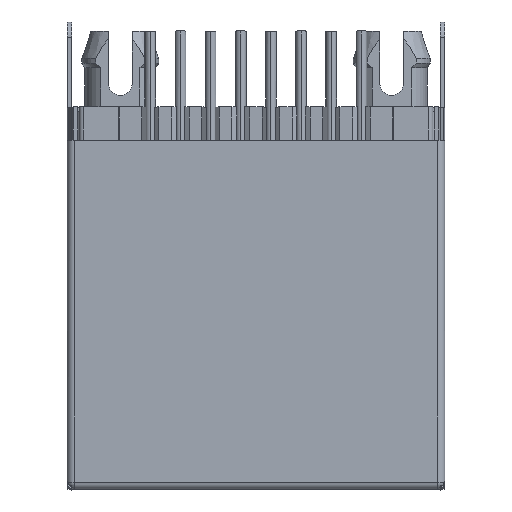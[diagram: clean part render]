
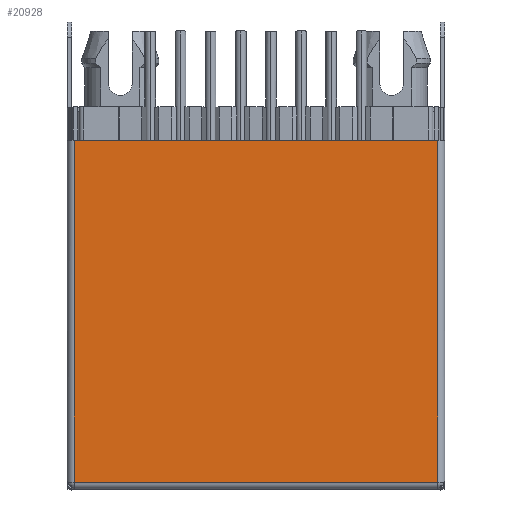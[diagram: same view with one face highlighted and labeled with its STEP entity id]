
A CAD part, top view. The second image highlights one B-rep face of the part: STEP entity #20928.
In plain terms, the highlighted planar face has unit normal (0, 0, 1).
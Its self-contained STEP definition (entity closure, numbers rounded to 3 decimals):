
#1200=DIRECTION('',(0.,1.,0.));
#1201=VECTOR('',#1200,14.4);
#1202=CARTESIAN_POINT('',(7.65,-7.85,8.4));
#1203=LINE('',#1202,#1201);
#7403=DIRECTION('',(1.,0.,0.));
#7404=VECTOR('',#7403,15.3);
#7405=CARTESIAN_POINT('',(-7.65,-7.85,8.4));
#7406=LINE('',#7405,#7404);
#7473=DIRECTION('',(0.,-1.,0.));
#7474=VECTOR('',#7473,14.4);
#7475=CARTESIAN_POINT('',(-7.65,6.55,8.4));
#7476=LINE('',#7475,#7474);
#7481=DIRECTION('',(-1.,0.,0.));
#7482=VECTOR('',#7481,15.3);
#7483=CARTESIAN_POINT('',(7.65,6.55,8.4));
#7484=LINE('',#7483,#7482);
#9434=CARTESIAN_POINT('',(-7.65,-7.85,8.4));
#9435=VERTEX_POINT('',#9434);
#9437=CARTESIAN_POINT('',(-7.65,6.55,8.4));
#9439=VERTEX_POINT('',#9437);
#9448=CARTESIAN_POINT('',(7.65,6.55,8.4));
#9449=VERTEX_POINT('',#9448);
#9493=CARTESIAN_POINT('',(7.65,-7.85,8.4));
#9494=VERTEX_POINT('',#9493);
#20917=CARTESIAN_POINT('',(0.,-0.65,8.4));
#20918=DIRECTION('',(0.,0.,1.));
#20919=DIRECTION('',(-1.,0.,0.));
#20920=AXIS2_PLACEMENT_3D('',#20917,#20918,#20919);
#20921=PLANE('',#20920);
#20922=ORIENTED_EDGE('',*,*,#12695,.F.);
#20923=ORIENTED_EDGE('',*,*,#20808,.F.);
#20924=ORIENTED_EDGE('',*,*,#20909,.F.);
#20925=ORIENTED_EDGE('',*,*,#12548,.F.);
#20926=EDGE_LOOP('',(#20922,#20923,#20924,#20925));
#20927=FACE_OUTER_BOUND('',#20926,.F.);
#20928=ADVANCED_FACE('',(#20927),#20921,.T.);
#12548=EDGE_CURVE('',#9449,#9439,#7484,.T.);
#12695=EDGE_CURVE('',#9494,#9449,#1203,.T.);
#20808=EDGE_CURVE('',#9435,#9494,#7406,.T.);
#20909=EDGE_CURVE('',#9439,#9435,#7476,.T.);
